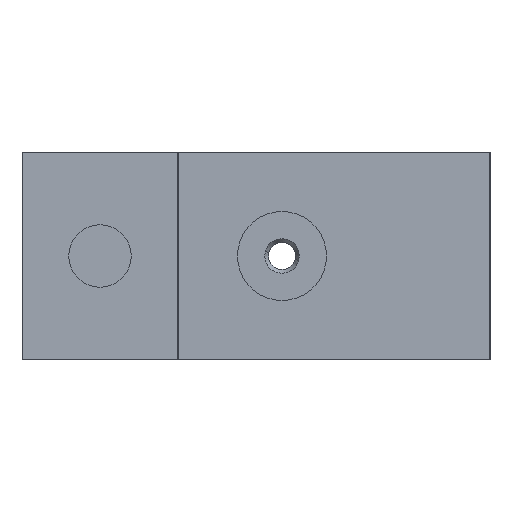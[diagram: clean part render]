
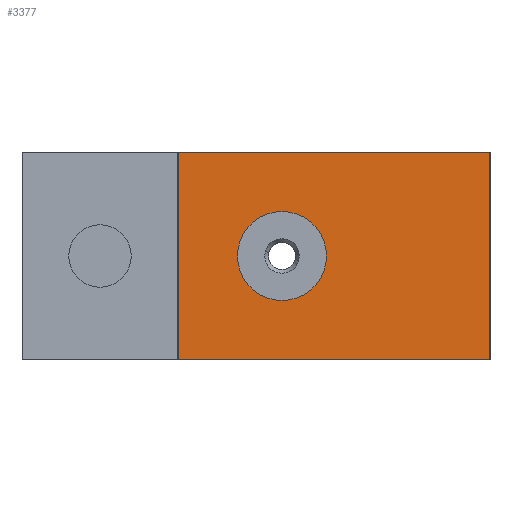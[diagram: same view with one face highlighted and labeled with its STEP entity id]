
A CAD part, left-side view. The second image highlights one B-rep face of the part: STEP entity #3377.
In plain terms, the highlighted planar face has unit normal (-1, 0, 0).
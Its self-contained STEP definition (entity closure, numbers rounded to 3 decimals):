
#445 = ORIENTED_EDGE ( 'NONE', *, *, #2778, .T. ) ;
#459 = ORIENTED_EDGE ( 'NONE', *, *, #2766, .F. ) ;
#836 = EDGE_LOOP ( 'NONE', ( #1220, #1272, #459, #445 ) ) ;
#848 = EDGE_LOOP ( 'NONE', ( #1260, #1231 ) ) ;
#1220 = ORIENTED_EDGE ( 'NONE', *, *, #2782, .T. ) ;
#1231 = ORIENTED_EDGE ( 'NONE', *, *, #2713, .F. ) ;
#1260 = ORIENTED_EDGE ( 'NONE', *, *, #2777, .F. ) ;
#1272 = ORIENTED_EDGE ( 'NONE', *, *, #2753, .F. ) ;
#1442 = VERTEX_POINT ( 'NONE', #5244 ) ;
#1446 = VERTEX_POINT ( 'NONE', #5222 ) ;
#1520 = VERTEX_POINT ( 'NONE', #5281 ) ;
#1563 = VERTEX_POINT ( 'NONE', #5346 ) ;
#1608 = VERTEX_POINT ( 'NONE', #5429 ) ;
#1610 = VERTEX_POINT ( 'NONE', #5440 ) ;
#2713 = EDGE_CURVE ( 'NONE', #1608, #1610, #4119, .T. ) ;
#2753 = EDGE_CURVE ( 'NONE', #1520, #1563, #3437, .T. ) ;
#2766 = EDGE_CURVE ( 'NONE', #1446, #1520, #3474, .T. ) ;
#2777 = EDGE_CURVE ( 'NONE', #1610, #1608, #3489, .T. ) ;
#2778 = EDGE_CURVE ( 'NONE', #1446, #1442, #3484, .T. ) ;
#2782 = EDGE_CURVE ( 'NONE', #1442, #1563, #3464, .T. ) ;
#3046 = AXIS2_PLACEMENT_3D ( 'NONE', #4178, #4220, #4214 ) ;
#3077 = AXIS2_PLACEMENT_3D ( 'NONE', #4423, #4400, #4440 ) ;
#3177 = AXIS2_PLACEMENT_3D ( 'NONE', #4942, #5032, #5031 ) ;
#3377 = ADVANCED_FACE ( 'NONE', ( #5745, #5713 ), #4975, .F. ) ;
#3437 = LINE ( 'NONE', #4341, #3439 ) ;
#3439 = VECTOR ( 'NONE', #4312, 1000. ) ;
#3464 = LINE ( 'NONE', #4417, #3505 ) ;
#3474 = LINE ( 'NONE', #4373, #3481 ) ;
#3481 = VECTOR ( 'NONE', #4351, 1000. ) ;
#3484 = LINE ( 'NONE', #4395, #3491 ) ;
#3489 = CIRCLE ( 'NONE', #3077, 4.28 ) ;
#3491 = VECTOR ( 'NONE', #4407, 1000. ) ;
#3505 = VECTOR ( 'NONE', #4439, 1000. ) ;
#4119 = CIRCLE ( 'NONE', #3046, 4.28 ) ;
#4178 = CARTESIAN_POINT ( 'NONE',  ( 0., 20., 0. ) ) ;
#4214 = DIRECTION ( 'NONE',  ( 0., 0., 1. ) ) ;
#4220 = DIRECTION ( 'NONE',  ( -1., 0., 0. ) ) ;
#4312 = DIRECTION ( 'NONE',  ( 0., 0., -1. ) ) ;
#4341 = CARTESIAN_POINT ( 'NONE',  ( 0., 0., 10. ) ) ;
#4351 = DIRECTION ( 'NONE',  ( 0., -1., 0. ) ) ;
#4373 = CARTESIAN_POINT ( 'NONE',  ( 0., 0., 10. ) ) ;
#4395 = CARTESIAN_POINT ( 'NONE',  ( 0., 30., 10. ) ) ;
#4400 = DIRECTION ( 'NONE',  ( -1., 0., 0. ) ) ;
#4407 = DIRECTION ( 'NONE',  ( 0., 0., -1. ) ) ;
#4417 = CARTESIAN_POINT ( 'NONE',  ( 0., 0., -10. ) ) ;
#4423 = CARTESIAN_POINT ( 'NONE',  ( 0., 20., 0. ) ) ;
#4439 = DIRECTION ( 'NONE',  ( 0., -1., 0. ) ) ;
#4440 = DIRECTION ( 'NONE',  ( 0., 0., 1. ) ) ;
#4942 = CARTESIAN_POINT ( 'NONE',  ( 0., 0., 10. ) ) ;
#4975 = PLANE ( 'NONE',  #3177 ) ;
#5031 = DIRECTION ( 'NONE',  ( 0., 0., -1. ) ) ;
#5032 = DIRECTION ( 'NONE',  ( 1., 0., 0. ) ) ;
#5222 = CARTESIAN_POINT ( 'NONE',  ( 0., 30., 10. ) ) ;
#5244 = CARTESIAN_POINT ( 'NONE',  ( 0., 30., -10. ) ) ;
#5281 = CARTESIAN_POINT ( 'NONE',  ( 0., 0., 10. ) ) ;
#5346 = CARTESIAN_POINT ( 'NONE',  ( 0., 0., -10. ) ) ;
#5429 = CARTESIAN_POINT ( 'NONE',  ( 0., 20., -4.28 ) ) ;
#5440 = CARTESIAN_POINT ( 'NONE',  ( 0., 20., 4.28 ) ) ;
#5713 = FACE_BOUND ( 'NONE', #848, .T. ) ;
#5745 = FACE_OUTER_BOUND ( 'NONE', #836, .T. ) ;
